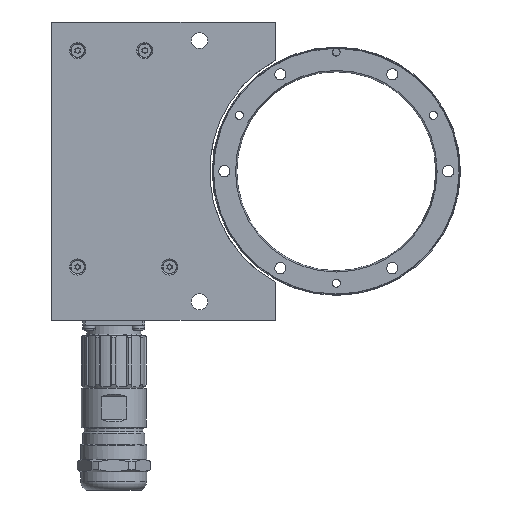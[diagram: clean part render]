
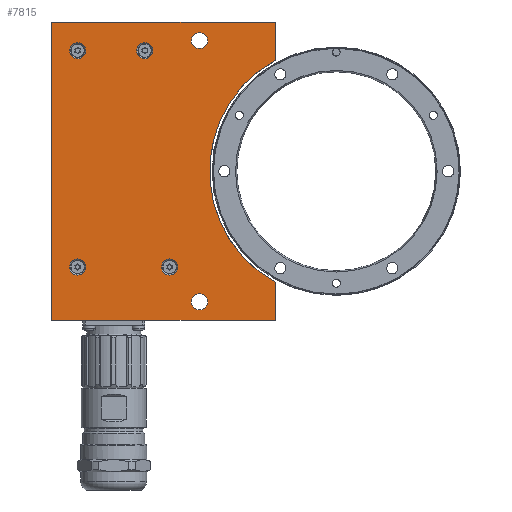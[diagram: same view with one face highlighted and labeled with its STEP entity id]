
A CAD part, left-side view. The second image highlights one B-rep face of the part: STEP entity #7815.
In plain terms, the highlighted planar face has unit normal (-1, 0, 0).
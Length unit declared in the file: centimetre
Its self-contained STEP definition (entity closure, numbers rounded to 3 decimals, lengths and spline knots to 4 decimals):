
#213=FACE_BOUND('',#2188,.T.);
#214=FACE_BOUND('',#2189,.T.);
#215=FACE_BOUND('',#2190,.T.);
#216=FACE_BOUND('',#2191,.T.);
#217=FACE_BOUND('',#2192,.T.);
#218=FACE_BOUND('',#2193,.T.);
#628=CIRCLE('',#8601,0.325);
#631=CIRCLE('',#8606,0.325);
#634=CIRCLE('',#8611,0.325);
#637=CIRCLE('',#8616,0.325);
#640=CIRCLE('',#8621,0.325);
#641=CIRCLE('',#8623,0.325);
#642=CIRCLE('',#8625,5.093);
#1547=FACE_OUTER_BOUND('',#2187,.T.);
#2187=EDGE_LOOP('',(#6061,#6062,#6063,#6064,#6065,#6066));
#2188=EDGE_LOOP('',(#6067));
#2189=EDGE_LOOP('',(#6068));
#2190=EDGE_LOOP('',(#6069));
#2191=EDGE_LOOP('',(#6070));
#2192=EDGE_LOOP('',(#6071));
#2193=EDGE_LOOP('',(#6072));
#2870=LINE('',#13046,#3216);
#2897=LINE('',#13234,#3243);
#2900=LINE('',#13238,#3246);
#2901=LINE('',#13240,#3247);
#2902=LINE('',#13242,#3248);
#3216=VECTOR('',#10244,9.);
#3243=VECTOR('',#10459,9.);
#3246=VECTOR('',#10464,1.535);
#3247=VECTOR('',#10467,1.535);
#3248=VECTOR('',#10470,12.);
#3697=VERTEX_POINT('',#13044);
#3698=VERTEX_POINT('',#13045);
#3745=VERTEX_POINT('',#13181);
#3748=VERTEX_POINT('',#13189);
#3751=VERTEX_POINT('',#13197);
#3754=VERTEX_POINT('',#13205);
#3757=VERTEX_POINT('',#13213);
#3758=VERTEX_POINT('',#13216);
#3760=VERTEX_POINT('',#13221);
#3761=VERTEX_POINT('',#13223);
#3764=VERTEX_POINT('',#13232);
#3765=VERTEX_POINT('',#13233);
#4578=EDGE_CURVE('',#3697,#3698,#2870,.T.);
#4635=EDGE_CURVE('',#3745,#3745,#628,.T.);
#4638=EDGE_CURVE('',#3748,#3748,#631,.T.);
#4641=EDGE_CURVE('',#3751,#3751,#634,.T.);
#4644=EDGE_CURVE('',#3754,#3754,#637,.T.);
#4647=EDGE_CURVE('',#3757,#3757,#640,.T.);
#4648=EDGE_CURVE('',#3758,#3758,#641,.T.);
#4651=EDGE_CURVE('',#3760,#3761,#642,.T.);
#4656=EDGE_CURVE('',#3764,#3765,#2897,.T.);
#4659=EDGE_CURVE('',#3765,#3760,#2900,.T.);
#4660=EDGE_CURVE('',#3761,#3697,#2901,.T.);
#4661=EDGE_CURVE('',#3698,#3764,#2902,.T.);
#6061=ORIENTED_EDGE('',*,*,#4656,.F.);
#6062=ORIENTED_EDGE('',*,*,#4661,.F.);
#6063=ORIENTED_EDGE('',*,*,#4578,.F.);
#6064=ORIENTED_EDGE('',*,*,#4660,.F.);
#6065=ORIENTED_EDGE('',*,*,#4651,.F.);
#6066=ORIENTED_EDGE('',*,*,#4659,.F.);
#6067=ORIENTED_EDGE('',*,*,#4635,.T.);
#6068=ORIENTED_EDGE('',*,*,#4638,.T.);
#6069=ORIENTED_EDGE('',*,*,#4641,.T.);
#6070=ORIENTED_EDGE('',*,*,#4644,.T.);
#6071=ORIENTED_EDGE('',*,*,#4647,.T.);
#6072=ORIENTED_EDGE('',*,*,#4648,.T.);
#7506=PLANE('',#8632);
#7815=ADVANCED_FACE('',(#1547,#213,#214,#215,#216,#217,#218),#7506,.F.);
#8601=AXIS2_PLACEMENT_3D('',#13182,#10399,#10400);
#8606=AXIS2_PLACEMENT_3D('',#13190,#10409,#10410);
#8611=AXIS2_PLACEMENT_3D('',#13198,#10419,#10420);
#8616=AXIS2_PLACEMENT_3D('',#13206,#10429,#10430);
#8621=AXIS2_PLACEMENT_3D('',#13214,#10439,#10440);
#8623=AXIS2_PLACEMENT_3D('',#13217,#10443,#10444);
#8625=AXIS2_PLACEMENT_3D('',#13224,#10449,#10450);
#8632=AXIS2_PLACEMENT_3D('',#13243,#10471,#10472);
#10244=DIRECTION('',(0.,1.,0.));
#10399=DIRECTION('center_axis',(1.,0.,0.));
#10400=DIRECTION('ref_axis',(0.,0.,-1.));
#10409=DIRECTION('center_axis',(1.,0.,0.));
#10410=DIRECTION('ref_axis',(0.,0.,-1.));
#10419=DIRECTION('center_axis',(1.,0.,0.));
#10420=DIRECTION('ref_axis',(0.,0.,-1.));
#10429=DIRECTION('center_axis',(1.,0.,0.));
#10430=DIRECTION('ref_axis',(0.,0.,-1.));
#10439=DIRECTION('center_axis',(1.,0.,0.));
#10440=DIRECTION('ref_axis',(0.,0.,1.));
#10443=DIRECTION('center_axis',(1.,0.,0.));
#10444=DIRECTION('ref_axis',(0.,0.,1.));
#10449=DIRECTION('center_axis',(-1.,0.,0.));
#10450=DIRECTION('ref_axis',(0.,-0.481,0.877));
#10459=DIRECTION('',(0.,-1.,0.));
#10464=DIRECTION('',(0.,0.,-1.));
#10467=DIRECTION('',(0.,0.,-1.));
#10470=DIRECTION('',(0.,0.,1.));
#10471=DIRECTION('center_axis',(1.,0.,0.));
#10472=DIRECTION('ref_axis',(0.,0.,1.));
#13044=CARTESIAN_POINT('',(0.2,2.45,-6.));
#13045=CARTESIAN_POINT('',(0.2,11.45,-6.));
#13046=CARTESIAN_POINT('',(0.2,2.45,-6.));
#13181=CARTESIAN_POINT('',(0.2,10.4,-4.175));
#13182=CARTESIAN_POINT('Origin',(0.2,10.4,-3.85));
#13189=CARTESIAN_POINT('',(0.2,7.7,4.525));
#13190=CARTESIAN_POINT('Origin',(0.2,7.7,4.85));
#13197=CARTESIAN_POINT('',(0.2,10.4,4.525));
#13198=CARTESIAN_POINT('Origin',(0.2,10.4,4.85));
#13205=CARTESIAN_POINT('',(0.2,6.7,-4.175));
#13206=CARTESIAN_POINT('Origin',(0.2,6.7,-3.85));
#13213=CARTESIAN_POINT('',(0.2,5.5,-5.575));
#13214=CARTESIAN_POINT('Origin',(0.2,5.5,-5.25));
#13216=CARTESIAN_POINT('',(0.2,5.5,4.925));
#13217=CARTESIAN_POINT('Origin',(0.2,5.5,5.25));
#13221=CARTESIAN_POINT('',(0.2,2.45,4.465));
#13223=CARTESIAN_POINT('',(0.2,2.45,-4.465));
#13224=CARTESIAN_POINT('Origin',(0.2,0.,0.));
#13232=CARTESIAN_POINT('',(0.2,11.45,6.));
#13233=CARTESIAN_POINT('',(0.2,2.45,6.));
#13234=CARTESIAN_POINT('',(0.2,11.45,6.));
#13238=CARTESIAN_POINT('',(0.2,2.45,6.));
#13240=CARTESIAN_POINT('',(0.2,2.45,-4.465));
#13242=CARTESIAN_POINT('',(0.2,11.45,-6.));
#13243=CARTESIAN_POINT('Origin',(0.2,7.1348,0.));
